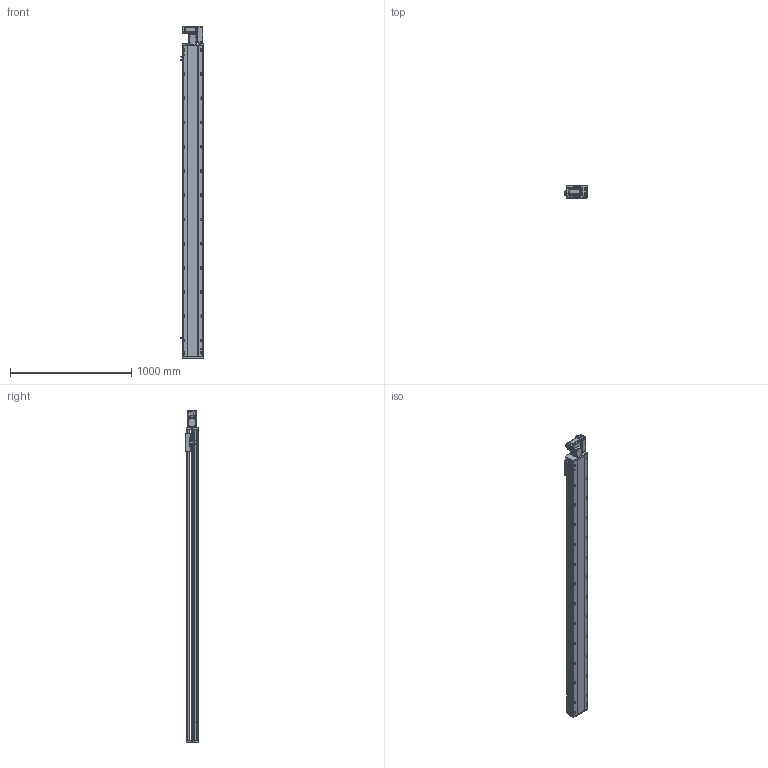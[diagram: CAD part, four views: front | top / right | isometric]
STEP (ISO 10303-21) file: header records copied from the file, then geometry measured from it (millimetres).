
FILE_DESCRIPTION (( 'STEP AP214' ), '1' );
FILE_NAME ('RTB17S-XX-2300-R-M40-C4.STEP', '2025-12-11T07:49:43', ( '' ), ( '' ), 'SwSTEP 2.0', 'SolidWorks 2018', '' );
FILE_SCHEMA (( 'AUTOMOTIVE_DESIGN' ));
Length unit declared in the file: millimetre
Products named in the file (14): RTB14-L-008-M20--萇儂啣^RTB17S-R-々湍釱蚾饜-400W_RTB17S-XX-XX-R-M40-C4; RTB14-L-017P^RTB17S-R-々湍釱蚾饜-400W_RTB17S-XX-XX-R-M40-C4; RTB14-L-005P--轴承塑胶压盖^RTB17S-R-皮带座装配-400W_RTB17S-XX-XX-R-M40-C4; 400W侜督萇儂^RTB17S-XX-XX-R-M40-C4; OMRON EE-SX672 传感器^RTB17S-XX-XX-R-M40-C4; RTB14-L-018P^RTB17S-R-々湍釱蚾饜-400W_RTB17S-XX-XX-R-M40-C4; RTH13-BL-012覜茼え俋离^RTB17S-XX-XX-R-M40-C4; RTB17S-R-々湍釱蚾饜-400W^RTB17S-XX-XX-R-M40-C4; RTB17S-L-001耜醱啣^RTB17S-XX-XX-R-M40-C4; RTB17S-L-007奻裔^RTB17S-XX-XX-R-M40-C4; RTB17S-L-014-T20--々湍釱^RTB17S-R-々湍釱蚾饜-400W_RTB17S-XX-XX-R-M40-C4; RTB17S-L-004佪裝蹟譫蟀諉釱^RTB17S-XX-XX-R-M40-C4; RTB17-R-011菁釱^RTB17S-XX-XX-R-M40-C4; RTB17S-XX-2300-R-M40-C4
Assembly tree (16 placements, depth 3):
  RTB17S-XX-2300-R-M40-C4
    RTB17-R-011菁釱^RTB17S-XX-XX-R-M40-C4
    RTB17S-L-007奻裔^RTB17S-XX-XX-R-M40-C4
    OMRON EE-SX672 传感器^RTB17S-XX-XX-R-M40-C4  x3
    RTB17S-L-001耜醱啣^RTB17S-XX-XX-R-M40-C4
    400W侜督萇儂^RTB17S-XX-XX-R-M40-C4
    RTB17S-L-004佪裝蹟譫蟀諉釱^RTB17S-XX-XX-R-M40-C4
    RTH13-BL-012覜茼え俋离^RTB17S-XX-XX-R-M40-C4
    RTB17S-R-々湍釱蚾饜-400W^RTB17S-XX-XX-R-M40-C4
      RTB17S-L-014-T20--々湍釱^RTB17S-R-々湍釱蚾饜-400W_RTB17S-XX-XX-R-M40-C4
      RTB14-L-005P--轴承塑胶压盖^RTB17S-R-皮带座装配-400W_RTB17S-XX-XX-R-M40-C4
      RTB14-L-008-M20--萇儂啣^RTB17S-R-々湍釱蚾饜-400W_RTB17S-XX-XX-R-M40-C4
      RTB14-L-017P^RTB17S-R-々湍釱蚾饜-400W_RTB17S-XX-XX-R-M40-C4  x2
      RTB14-L-018P^RTB17S-R-々湍釱蚾饜-400W_RTB17S-XX-XX-R-M40-C4
Bounding box: 183.5 x 108 x 2741 mm (x, y, z)
Volume: 22973120.9 mm3; surface area: 2655042.9 mm2
Topology: 15 solids, 15 shells, 2317 faces, 6465 edges, 4221 vertices
Faces by surface type: plane 1082, cylinder 787, bspline 301, cone 139, torus 8
Entity records: 68009 total; most frequent: CARTESIAN_POINT 19270, ORIENTED_EDGE 9774, DIRECTION 9026, EDGE_CURVE 4887, VERTEX_POINT 3209, AXIS2_PLACEMENT_3D 3139, LINE 2748, VECTOR 2748
